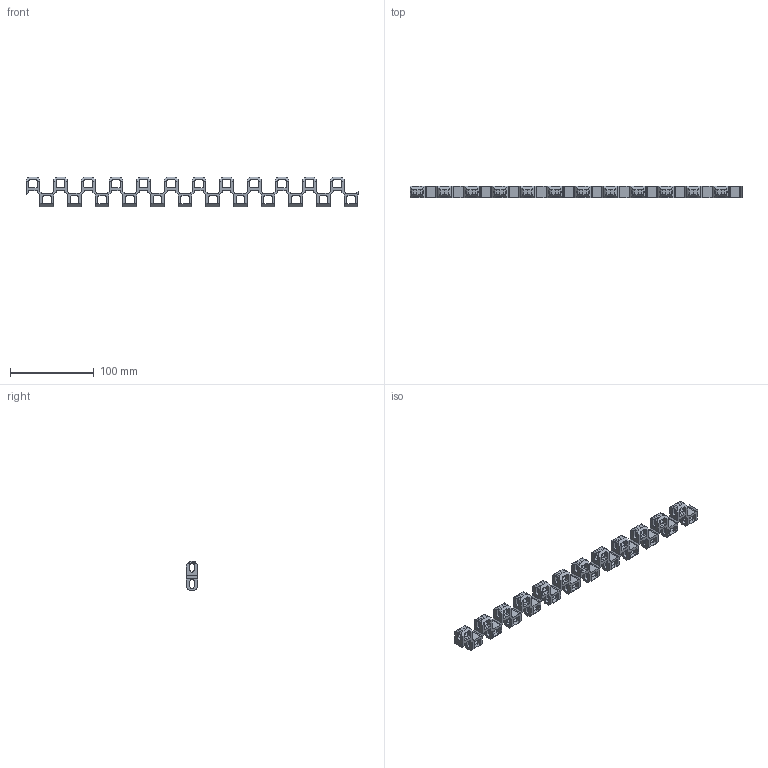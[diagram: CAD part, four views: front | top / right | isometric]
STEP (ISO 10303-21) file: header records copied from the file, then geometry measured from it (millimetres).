
FILE_DESCRIPTION(('CATIA V5 STEP Exchange'),'2;1');
FILE_NAME('C:\Users\ALI OZGUN\Desktop\alhan\940B01K10.stp','2017-08-22T12:02:01+00:00',('none'),('none'),'CATIA Version 5 Release 21 GA (IN-10)','CATIA V5 STEP AP203','none');
FILE_SCHEMA(('CONFIG_CONTROL_DESIGN'));
Length unit declared in the file: millimetre
Products named in the file (1): 940B01K10
Bounding box: 396 x 14 x 35 mm (x, y, z)
Volume: 44591.1 mm3; surface area: 39979 mm2
Topology: 1 solids, 1 shells, 1014 faces, 3396 edges, 2264 vertices
Faces by surface type: plane 654, cylinder 360
Entity records: 36732 total; most frequent: CARTESIAN_POINT 10425, ORIENTED_EDGE 6792, DIRECTION 3660, EDGE_CURVE 3396, VECTOR 2280, LINE 2280, VERTEX_POINT 2264, EDGE_LOOP 1038
